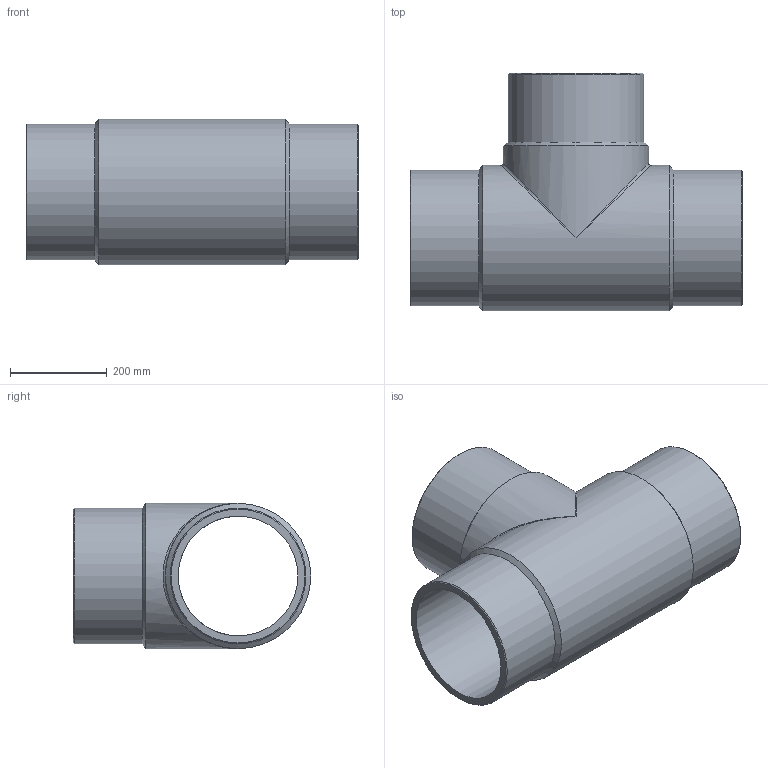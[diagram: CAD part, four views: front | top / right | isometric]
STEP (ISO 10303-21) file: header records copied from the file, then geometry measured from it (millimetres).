
FILE_DESCRIPTION(/* description */ ('Unknown'),/* implementation_level */ '2;1');
FILE_NAME(/* name */ 'TP280B',/* time_stamp */ '2021-08-06T12:13:03+02:00',/* author */ ('Unknown'),/* organization */ ('Unknown'),/* preprocessor_version */ 'ST-DEVELOPER v16.7',/* originating_system */ 'Solid Edge',/* authorisation */ 'Unknown');
FILE_SCHEMA (('AUTOMOTIVE_DESIGN {1 0 10303 214 3 1 1}'));
Length unit declared in the file: millimetre
Products named in the file (1): TP280B
Bounding box: 685 x 490 x 300 mm (x, y, z)
Volume: 15434181.2 mm3; surface area: 1481870.4 mm2
Topology: 1 solids, 1 shells, 18 faces, 44 edges, 23 vertices
Faces by surface type: cylinder 7, cone 6, plane 3, bspline 2
Full cylindrical faces by diameter (mm): 246.8 x2, 280 x3, 300 x2
Entity records: 528 total; most frequent: CARTESIAN_POINT 171, DIRECTION 76, ORIENTED_EDGE 42, AXIS2_PLACEMENT_3D 38, EDGE_LOOP 36, FACE_BOUND 36, EDGE_CURVE 21, VERTEX_POINT 19
